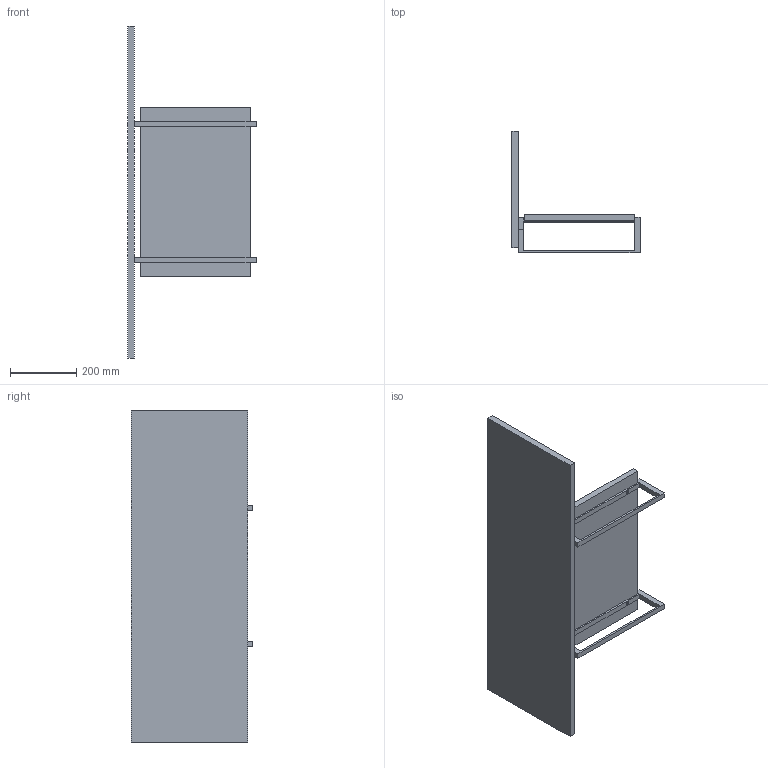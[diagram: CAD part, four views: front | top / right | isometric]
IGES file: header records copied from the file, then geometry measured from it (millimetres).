
Start section: SolidWorks IGES file using analytic representation for surfaces
Global section: file name: C:\Users\hcaixa\Documents\Gabinete Tecnico\72_produtos cliente\Timsteel\Estantes\Estantes  Q16\Q16 versão catalogo\Assemblys\IGS\Novas Peças\Head-UP- Base Monitor com Painel.IGS; native system: SolidWorks 2014; preprocessor: SolidWorks 2014; author: hcaixa; date: 190918.083552; units: millimetre
Bounding box: 386 x 365 x 1000 mm (x, y, z)
Surface area: 1208037.9 mm2 (no closed solid volume)
Topology: 0 solids, 0 shells, 70 faces, 960 edges, 960 vertices
Faces by surface type: bspline 46, revolution 24
